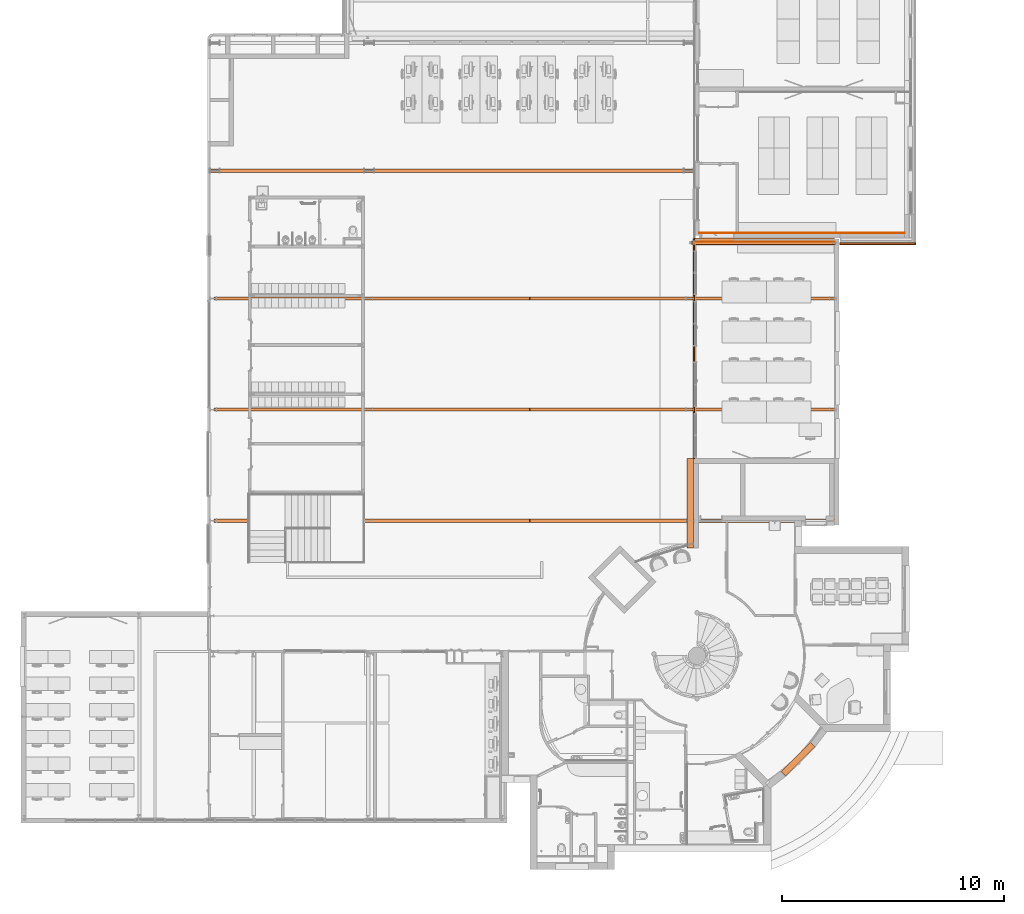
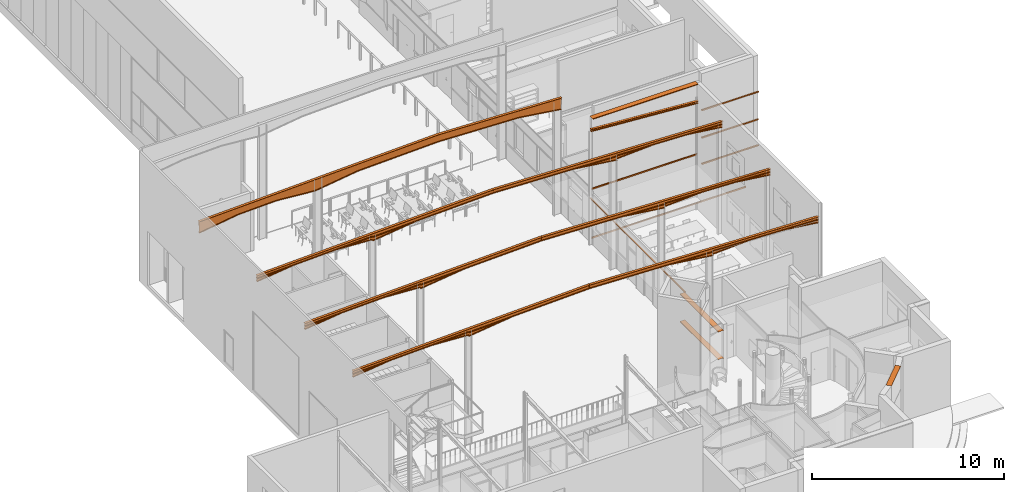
# One storey, part 131 of 137: 18 proxies.
"""IFC2X3 building model written with IfcOpenShell, lengths in centimetres."""

from ifc_helpers import new_model, entity, si_unit, converted_unit, derived_unit, direction, frame, frame_2d, origin, origin_2d_with_axis, place, context, subcontext, project, spatial, polyline, rectangle, outline, extrude, source, transform, mapped, element, save


model = new_model("IFC2X3")

# Units and contexts
model_context = context("Model", 3, precision=0.001, world=origin(), true_north=direction((6.12303176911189e-17, 1.0)))
body_context = subcontext(model_context, "Body", "Model", "MODEL_VIEW")
ifc_project = project(units=[si_unit("LENGTHUNIT", "METRE", prefix="CENTI"), si_unit("AREAUNIT", "SQUARE_METRE"), si_unit("VOLUMEUNIT", "CUBIC_METRE"), converted_unit("PLANEANGLEUNIT", "DEGREE", entity("IfcRatioMeasure", 0.0174532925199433), si_unit("PLANEANGLEUNIT", "RADIAN"), dimensions=[0, 0, 0, 0, 0, 0, 0]), si_unit("MASSUNIT", "GRAM", prefix="KILO"), si_unit("TIMEUNIT", "SECOND"), si_unit("FREQUENCYUNIT", "HERTZ"), si_unit("THERMODYNAMICTEMPERATUREUNIT", "DEGREE_CELSIUS"), derived_unit("THERMALTRANSMITTANCEUNIT", [(si_unit("MASSUNIT", "GRAM", prefix="KILO"), 1), (si_unit("THERMODYNAMICTEMPERATUREUNIT", "KELVIN"), -1), (si_unit("TIMEUNIT", "SECOND"), -3)]), derived_unit("VOLUMETRICFLOWRATEUNIT", [(si_unit("LENGTHUNIT", "METRE"), 3), (si_unit("TIMEUNIT", "SECOND"), -1)]), si_unit("ELECTRICCURRENTUNIT", "AMPERE"), si_unit("ELECTRICVOLTAGEUNIT", "VOLT"), si_unit("POWERUNIT", "WATT"), si_unit("FORCEUNIT", "NEWTON", prefix="KILO"), si_unit("ILLUMINANCEUNIT", "LUX"), si_unit("LUMINOUSFLUXUNIT", "LUMEN"), si_unit("LUMINOUSINTENSITYUNIT", "CANDELA"), derived_unit("USERDEFINED", [(si_unit("MASSUNIT", "GRAM", prefix="KILO"), -1), (si_unit("LENGTHUNIT", "METRE"), -2), (si_unit("TIMEUNIT", "SECOND"), 3), (si_unit("LUMINOUSFLUXUNIT", "LUMEN"), 1)]), derived_unit("LINEARVELOCITYUNIT", [(si_unit("LENGTHUNIT", "METRE"), 1), (si_unit("TIMEUNIT", "SECOND"), -1)]), si_unit("PRESSUREUNIT", "PASCAL"), derived_unit("USERDEFINED", [(si_unit("LENGTHUNIT", "METRE"), -2), (si_unit("MASSUNIT", "GRAM", prefix="KILO"), 1), (si_unit("TIMEUNIT", "SECOND"), -2)])], contexts=[model_context])

# Site, building, storey
site_placement = place(None, frame((8.62739174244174, -249.285249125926, 0.0)))
site = spatial("IfcSite", under=ifc_project, at=site_placement, Name="Default", CompositionType="ELEMENT")
building_placement = place(site_placement, origin())
building = spatial("IfcBuilding", under=site, at=building_placement, CompositionType="ELEMENT")
storey_placement = place(building_placement, origin())
storey = spatial("IfcBuildingStorey", under=building, at=storey_placement, Name="RDC", CompositionType="ELEMENT", Elevation=-8.82465566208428e-11)

# Proxies
shared_shape_1 = source(origin(), body_context, "Body", "SweptSolid", [
    extrude(rectangle(XDim=0.999999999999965, YDim=14.9999999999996, at=origin_2d_with_axis()), frame((-317.682768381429, -0.499999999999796, -38.6197056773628), z_axis=(0.999390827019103, 0.0, 0.0348994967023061), x_axis=(0.0348994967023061, 0.0, -0.999390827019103)), (0.0, 0.0, 1.0), 636.416314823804),
    extrude(rectangle(XDim=13.0, YDim=1.00000000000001, at=frame_2d((0.0, -3.10862446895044e-15), x_axis=(0.0, 1.0))), frame((-318.101562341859, -0.499999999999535, -31.6300634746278), z_axis=(0.999390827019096, 0.0, 0.0348994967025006), x_axis=(0.0, 1.0, 0.0)), (0.0, 0.0, 1.0), 636.416314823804),
    extrude(rectangle(XDim=0.999999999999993, YDim=15.0, at=frame_2d((-1.69309011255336e-15, 8.88178419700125e-16), x_axis=(1.0, 0.0))), frame((-318.345858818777, -0.499999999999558, -24.6343276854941), z_axis=(0.999390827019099, 0.0, 0.0348994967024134), x_axis=(0.0348994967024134, 0.0, -0.999390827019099)), (0.0, 0.0, 1.0), 636.416792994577),
])
proxy_1_placement = place(storey_placement, frame((3338.92893028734, 2611.98020806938, 725.900000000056), z_axis=(0.0341459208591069, 0.0, 0.999416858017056), x_axis=(-0.999416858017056, 0.0, 0.0341459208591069)))
element("IfcBuildingElementProxy", 1, at=proxy_1_placement, inside=storey, Name="Portique_3:Portique_3", ObjectType="Portique_3", context=body_context, shape_type="MappedRepresentation", body=[
    mapped(shared_shape_1, transform((0.0, 0.0, 0.0), scale=1.0)),
])
shared_shape_2 = source(origin(), body_context, "Body", "SweptSolid", [
    extrude(outline(polyline([(-107.920447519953, -0.49999999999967), (102.397426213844, -0.500000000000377), (113.498456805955, 0.499999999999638), (-107.975435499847, 0.500000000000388), (-107.920447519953, -0.49999999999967)])), frame((835.036972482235, -8.0, -34.848519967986), z_axis=(0.0, 1.0, 0.0), x_axis=(0.998491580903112, 0.0, 0.0549050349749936)), (0.0, 0.0, 1.0), 15.0000000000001),
    extrude(outline(polyline([(-139.865946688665, -6.28411905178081), (70.4512998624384, -6.28411905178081), (69.4146468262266, 12.5682381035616), (-139.865946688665, -6.28411905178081)])), frame((797.252487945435, -1.0, -30.1318446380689), z_axis=(0.0, 1.0, 0.0), x_axis=(-0.998491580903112, 0.0, -0.0549050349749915)), (0.0, 0.0, 1.0), 0.999999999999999),
    extrude(outline(polyline([(13.0119701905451, -107.784797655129), (14.0198017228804, -107.784797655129), (-13.7103805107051, 113.354392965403), (-13.3213914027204, 102.215202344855), (13.0119701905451, -107.784797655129)])), frame((1314.29024946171, -8.0, -51.6455465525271), z_axis=(0.0, 1.0, 0.0), x_axis=(0.0, 0.0, -1.0)), (0.0, 0.0, 1.0), 15.0000000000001),
    extrude(outline(polyline([(-140.306366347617, -6.32947523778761), (69.8216379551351, -6.32947523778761), (70.4847283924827, 12.6589504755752), (-140.306366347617, -6.32947523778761)])), frame((1352.07504711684, -1.0, -49.5463962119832), z_axis=(0.0, 1.0, 0.0), x_axis=(0.999390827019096, 0.0, -0.034899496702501)), (0.0, 0.0, 1.0), 0.999999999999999),
    extrude(outline(polyline([(15.780524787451, -129.86312074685), (16.7883563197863, -129.86312074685), (-16.4789351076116, 135.432716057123), (-16.0899459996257, 124.293525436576), (15.780524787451, -129.86312074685)])), frame((597.389367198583, -8.0, -32.6108168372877), z_axis=(0.0, 1.0, 0.0), x_axis=(0.0, 0.0, -1.0)), (0.0, 0.0, 1.0), 15.0000000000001),
    extrude(outline(polyline([(-169.844548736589, -7.66199634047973), (84.5209301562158, -7.66199634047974), (85.3236185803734, 15.3239926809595), (-169.844548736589, -7.66199634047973)])), frame((642.515645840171, -1.0, -30.0989325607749), z_axis=(0.0, 1.0, 0.0), x_axis=(0.999390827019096, 0.0, -0.034899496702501)), (0.0, 0.0, 1.0), 0.999999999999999),
    extrude(outline(polyline([(-130.81744949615, -0.499999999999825), (125.32963268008, -0.500000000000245), (136.430663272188, 0.499999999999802), (-130.942846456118, 0.500000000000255), (-130.81744949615, -0.499999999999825)])), frame((-612.084629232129, -8.0, -33.1288615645), z_axis=(0.0, 1.0, 0.0), x_axis=(0.99222932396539, 0.0, 0.124422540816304)), (0.0, 0.0, 1.0), 15.0000000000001),
    extrude(outline(polyline([(-169.847016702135, -7.60709148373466), (86.3543675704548, -7.60709148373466), (83.4926491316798, 15.2141829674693), (-169.847016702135, -7.60709148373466)])), frame((-657.210907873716, -1.0, -30.6169772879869), z_axis=(0.0, 1.0, 0.0), x_axis=(-0.99222932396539, 0.0, -0.124422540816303)), (0.0, 0.0, 1.0), 0.999999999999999),
    extrude(outline(polyline([(5.42613015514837, -107.785110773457), (6.42764085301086, -107.785110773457), (-5.73239095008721, 113.35470608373), (-6.12138005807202, 102.215515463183), (5.42613015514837, -107.785110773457)])), frame((-849.872310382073, -8.0, -35.3665813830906), z_axis=(0.0, 1.0, 0.0), x_axis=(0.0, 0.0, -1.0)), (0.0, 0.0, 1.0), 15.0000000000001),
    extrude(outline(polyline([(-139.865692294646, -6.28977855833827), (70.2623120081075, -6.28977855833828), (69.603380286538, 12.5795571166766), (-139.865692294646, -6.28977855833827)])), frame((-812.087825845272, -1.0, -30.6499060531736), z_axis=(0.0, 1.0, 0.0), x_axis=(0.999390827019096, 0.0, 0.0348994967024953)), (0.0, 0.0, 1.0), 0.999999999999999),
    extrude(outline(polyline([(-108.566219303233, -0.499999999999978), (103.078402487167, -0.50000000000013), (114.179433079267, 0.499999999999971), (-108.691616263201, 0.500000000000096), (-108.566219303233, -0.499999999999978)])), frame((-1270.33165539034, -8.0, -49.5307236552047), z_axis=(0.0, 1.0, 0.0), x_axis=(0.99222932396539, 0.0, 0.124422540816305)), (0.0, 0.0, 1.0), 15.0000000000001),
    extrude(outline(polyline([(-140.308405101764, -6.2841190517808), (71.3362166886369, -6.2841190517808), (68.9721884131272, 12.5682381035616), (-140.308405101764, -6.2841190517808)])), frame((-1308.11645304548, -1.0, -47.4315733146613), z_axis=(0.0, 1.0, 0.0), x_axis=(-0.99222932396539, 0.0, -0.124422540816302)), (0.0, 0.0, 1.0), 0.999999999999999),
    extrude(rectangle(XDim=0.999999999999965, YDim=14.9999999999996, at=frame_2d((-1.05748743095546e-14, 0.0), x_axis=(1.0, 0.0))), frame((-1378.13390279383, -0.499999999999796, -43.6227533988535), z_axis=(0.999390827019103, 0.0, 0.0348994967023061), x_axis=(0.0348994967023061, 0.0, -0.999390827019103)), (0.0, 0.0, 1.0), 636.416314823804),
    extrude(rectangle(XDim=18.0, YDim=1.00000000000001, at=frame_2d((0.0, -5.32907051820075e-15), x_axis=(0.0, 1.0))), frame((727.04572419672, -0.499999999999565, -11.3804625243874), z_axis=(0.999390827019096, 0.0, -0.0348994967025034), x_axis=(0.0, 1.0, 0.0)), (0.0, 0.0, 1.0), 695.802181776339),
    extrude(rectangle(XDim=1.00000000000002, YDim=14.9999999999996, at=frame_2d((-1.66533453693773e-15, 0.0), x_axis=(1.0, 0.0))), frame((726.714178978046, -0.499999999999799, -20.8746753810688), z_axis=(0.999390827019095, 0.0, -0.0348994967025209), x_axis=(-0.0348994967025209, 0.0, -0.999390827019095)), (0.0, 0.0, 1.0), 695.802181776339),
    extrude(rectangle(XDim=1.00000000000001, YDim=15.0, at=frame_2d((-1.11022302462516e-16, 8.88178419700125e-16), x_axis=(1.0, 0.0))), frame((727.377269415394, -0.499999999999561, -1.88624966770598), z_axis=(0.999390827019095, 0.0, -0.0348994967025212), x_axis=(-0.0348994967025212, 0.0, -0.999390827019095)), (0.0, 0.0, 1.0), 695.80218177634),
    extrude(rectangle(XDim=18.0, YDim=1.00000000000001, at=frame_2d((0.0, 3.5527136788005e-15), x_axis=(0.0, 1.0))), frame((-1378.4654480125, -0.499999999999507, -34.1285405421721), z_axis=(0.999390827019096, 0.0, 0.0348994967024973), x_axis=(0.0, 1.0, 0.0)), (0.0, 0.0, 1.0), 636.416314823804),
    extrude(rectangle(XDim=1.0, YDim=15.0, at=frame_2d((0.0, 8.88178419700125e-16), x_axis=(1.0, 0.0))), frame((-1378.79699323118, -0.499999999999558, -24.6343276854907), z_axis=(0.999390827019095, 0.0, 0.0348994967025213), x_axis=(0.0348994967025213, 0.0, -0.999390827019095)), (0.0, 0.0, 1.0), 636.416792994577),
    extrude(rectangle(XDim=22.0000000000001, YDim=1.00000000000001, at=frame_2d((-5.55111512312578e-17, 0.0), x_axis=(0.0, 1.0))), frame((0.418793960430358, -0.499999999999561, 11.9926899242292), z_axis=(0.999390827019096, 0.0, -0.0348994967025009), x_axis=(0.0, 1.0, 0.0)), (0.0, 0.0, 1.0), 727.000000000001),
    extrude(rectangle(XDim=1.00000000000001, YDim=14.9999999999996, at=origin_2d_with_axis()), frame((0.017449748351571, -0.499999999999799, 0.499695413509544), z_axis=(0.999390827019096, 0.0, -0.034899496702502), x_axis=(-0.034899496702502, 0.0, -0.999390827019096)), (0.0, 0.0, 1.0), 726.999999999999),
    extrude(rectangle(XDim=1.00000000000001, YDim=15.0, at=frame_2d((0.0, 8.88178419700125e-16), x_axis=(1.0, 0.0))), frame((0.820138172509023, -0.499999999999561, 23.4856844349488), z_axis=(0.999390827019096, 0.0, -0.0348994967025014), x_axis=(-0.0348994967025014, 0.0, -0.999390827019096)), (0.0, 0.0, 1.0), 726.999999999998),
    extrude(rectangle(XDim=22.0000000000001, YDim=1.00000000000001, at=frame_2d((0.0, 1.77635683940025e-15), x_axis=(0.0, 1.0))), frame((-742.366543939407, -0.499999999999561, -13.9166964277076), z_axis=(0.999390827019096, 0.0, 0.0348994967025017), x_axis=(0.0, 1.0, 0.0)), (0.0, 0.0, 1.0), 742.400000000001),
    extrude(rectangle(XDim=0.999999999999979, YDim=14.9999999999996, at=frame_2d((-3.52495810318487e-15, 0.0), x_axis=(1.0, 0.0))), frame((-741.965199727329, -0.499999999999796, -25.4096909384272), z_axis=(0.999390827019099, 0.0, 0.0348994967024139), x_axis=(0.0348994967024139, 0.0, -0.999390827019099)), (0.0, 0.0, 1.0), 742.400000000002),
    extrude(rectangle(XDim=0.999999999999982, YDim=15.0, at=frame_2d((-3.33066907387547e-15, 8.88178419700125e-16), x_axis=(1.0, 0.0))), frame((-742.767888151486, -0.49999999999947, -2.42370191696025), z_axis=(0.999390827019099, 0.0, 0.0348994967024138), x_axis=(0.0348994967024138, 0.0, -0.999390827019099)), (0.0, 0.0, 1.0), 742.0),
])
for number, where, z_axis, x_axis, name in (
    (2, (2291.24241572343, 1861.48020806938, 737.034620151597), (0.0, 0.0, 1.0), (-1.0, 0.0, 0.0), "Portique_4-51:Portique_4-5-6 2"),
    (3, (2291.24241572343, 1361.48020806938, 737.034620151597), (0.0, 0.0, 1.0), (-1.0, 0.0, 0.0), "Portique_4-51:Portique_4-5-6 2"),
    (4, (2291.24241572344, 2361.48020806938, 737.034620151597), (0.0, 0.0, 1.0), (-1.0, 0.0, 0.0), "Portique_4-51:Portique_4-5-6 2"),
):
    element("IfcBuildingElementProxy", number, at=place(storey_placement, frame(where, z_axis=z_axis, x_axis=x_axis)), inside=storey, Name=name, ObjectType="Portique_4-5-6 2", context=body_context, shape_type="MappedRepresentation", body=[
        mapped(shared_shape_2, transform((0.0, 0.0, 0.0), scale=1.0)),
    ])
shared_shape_3 = source(origin(), body_context, "Body", "SweptSolid", [
    extrude(rectangle(XDim=0.999999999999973, YDim=14.9999999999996, at=origin_2d_with_axis()), frame((-322.837915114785, -0.499999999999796, -38.7997273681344), z_axis=(0.999390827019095, 0.0, 0.0348994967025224), x_axis=(0.0348994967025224, 0.0, -0.999390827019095)), (0.0, 0.0, 1.0), 636.416792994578),
    extrude(rectangle(XDim=13.0, YDim=1.00000000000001, at=frame_2d((0.0, 3.10862446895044e-15), x_axis=(0.0, 1.0))), frame((-323.082211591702, -0.499999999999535, -31.8039915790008), z_axis=(0.999390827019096, 0.0, 0.0348994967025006), x_axis=(0.0, 1.0, 0.0)), (0.0, 0.0, 1.0), 636.416792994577),
    extrude(rectangle(XDim=0.999999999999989, YDim=15.0, at=frame_2d((0.0, 8.88178419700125e-16), x_axis=(1.0, 0.0))), frame((-323.326508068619, -0.499999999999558, -24.8082557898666), z_axis=(0.999390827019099, 0.0, 0.0348994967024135), x_axis=(0.0348994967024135, 0.0, -0.999390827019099)), (0.0, 0.0, 1.0), 636.416792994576),
])
proxy_2_placement = place(storey_placement, frame((3345.92305056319, 2611.48020806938, 725.661039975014), z_axis=(0.0341459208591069, 0.0, 0.999416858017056), x_axis=(-0.999416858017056, 0.0, 0.0341459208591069)))
element("IfcBuildingElementProxy", 5, at=proxy_2_placement, inside=storey, Name="Portique_1:Portique_3 2", ObjectType="Portique_3 2", context=body_context, shape_type="MappedRepresentation", body=[
    mapped(shared_shape_3, transform((0.0, 0.0, 0.0), scale=1.0)),
])
shared_shape_4 = source(origin(), body_context, "Body", "SweptSolid", [
    extrude(outline(polyline([(8.95434758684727, -116.301011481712), (9.96650108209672, -116.301011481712), (-8.95434758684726, 116.301011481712), (-9.96650108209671, 116.301011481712), (8.95434758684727, -116.301011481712)])), frame((1319.78464007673, -8.0, -82.1577671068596), z_axis=(0.0, 1.0, 0.0), x_axis=(-0.0697564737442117, 0.0, -0.997564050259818)), (0.0, 0.0, 1.0), 15.0000000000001),
    extrude(outline(polyline([(-115.9, -29.2567540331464), (115.9, -29.2567540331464), (115.9, 42.7702620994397), (-115.9, 15.7432459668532), (-115.9, -29.2567540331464)])), frame((1320.840988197, -1.0, -52.4139915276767), z_axis=(0.0, 1.0, 0.0), x_axis=(0.999390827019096, 0.0, -0.0348994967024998)), (0.0, 0.0, 1.0), 0.999999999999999),
    extrude(rectangle(XDim=0.999999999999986, YDim=14.9999999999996, at=frame_2d((0.0, 4.44089209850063e-16), x_axis=(1.0, 0.0))), frame((972.785916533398, -0.499999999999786, -56.5127875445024), z_axis=(0.999390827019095, 0.0, -0.0348994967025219), x_axis=(-0.0348994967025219, 0.0, -0.999390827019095)), (0.0, 0.0, 1.0), 231.799999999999),
    extrude(rectangle(XDim=0.999999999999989, YDim=14.9999999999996, at=frame_2d((1.69309011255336e-15, 4.44089209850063e-16), x_axis=(1.0, 0.0))), frame((-0.0174497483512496, -0.4999999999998, 23.4862936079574), z_axis=(0.999390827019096, 0.0, -0.0348994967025), x_axis=(-0.0348994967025, 0.0, -0.999390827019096)), (0.0, 0.0, 1.0), 743.202688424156),
    extrude(outline(polyline([(13.0095923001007, -128.825000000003), (14.0174238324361, -128.825000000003), (-13.0095923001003, 128.825000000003), (-14.0174238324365, 128.825000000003), (13.0095923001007, -128.825000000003)])), frame((611.908848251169, -8.0, -57.4363459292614), z_axis=(0.0, 1.0, 0.0), x_axis=(-0.0348994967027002, 0.0, -0.999390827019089)), (0.0, 0.0, 1.0), 15.0000000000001),
    extrude(outline(polyline([(-128.825, -29.2567540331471), (128.825, -29.2567540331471), (128.825, 42.7702620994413), (-128.825, 15.7432459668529), (-128.825, -29.2567540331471)])), frame((612.947480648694, -1.0, -27.6938055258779), z_axis=(0.0, 1.0, 0.0), x_axis=(0.999390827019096, 0.0, -0.0348994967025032)), (0.0, 0.0, 1.0), 0.999999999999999),
    extrude(rectangle(XDim=45.0, YDim=1.00000000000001, at=frame_2d((0.0, 0.0), x_axis=(0.0, 1.0))), frame((-0.820138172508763, -0.499999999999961, 0.500304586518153), z_axis=(0.999390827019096, 0.0, -0.0348994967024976), x_axis=(0.0, 1.0, 0.0)), (0.0, 0.0, 1.0), 485.55268842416),
    extrude(outline(polyline([(-241.964436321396, -0.499999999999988), (241.94697593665, -0.499999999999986), (241.981896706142, 0.499999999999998), (-241.964436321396, 0.499999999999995), (-241.964436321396, -0.499999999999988)])), frame((241.81703812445, -8.0, -30.9867918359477), z_axis=(0.0, 1.0, 0.0), x_axis=(-0.999390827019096, 0.0, 0.0348994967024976)), (0.0, 0.0, 1.0), 14.9999999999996),
    extrude(rectangle(XDim=0.999999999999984, YDim=14.9999999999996, at=frame_2d((-4.21884749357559e-15, 0.0), x_axis=(1.0, 0.0))), frame((-742.732499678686, -0.499999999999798, -2.45110616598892), z_axis=(0.999390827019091, 0.0, 0.0348994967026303), x_axis=(0.0348994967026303, 0.0, -0.999390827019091)), (0.0, 0.0, 1.0), 743.20268842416),
    extrude(outline(polyline([(-116.644121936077, -0.504410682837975), (116.7261838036, -0.50441068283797), (116.644121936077, 0.504410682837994), (-116.7261838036, 0.504410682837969), (-116.644121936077, -0.504410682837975)])), frame((856.502354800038, -8.0, -65.9795932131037), z_axis=(0.0, 1.0, 0.0), x_axis=(0.996707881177, 0.0, 0.0810765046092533)), (0.0, 0.0, 1.0), 15.0000000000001),
    extrude(outline(polyline([(-29.2567540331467, -115.9), (15.7432459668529, -115.9), (42.7702620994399, 115.9), (-29.2567540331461, 115.9), (-29.2567540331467, -115.9)])), frame((857.523400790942, -1.0, -36.2345848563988), z_axis=(0.0, 1.0, 0.0), x_axis=(-0.0348994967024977, 0.0, -0.999390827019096)), (0.0, 0.0, 1.0), 0.999999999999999),
    extrude(outline(polyline([(-129.479260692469, -0.501165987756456), (129.584403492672, -0.501165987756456), (129.479260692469, 0.501165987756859), (-129.584403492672, 0.501165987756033), (-129.479260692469, -0.501165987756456)])), frame((-611.908848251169, -8.0, -57.4363459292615), z_axis=(0.0, 1.0, 0.0), x_axis=(0.990296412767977, 0.0, 0.138971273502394)), (0.0, 0.0, 1.0), 15.0000000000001),
    extrude(outline(polyline([(-29.2567540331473, -128.825), (15.7432459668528, -128.825), (42.7702620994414, 128.825), (-29.256754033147, 128.825), (-29.2567540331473, -128.825)])), frame((-612.947480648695, -1.0, -27.6938055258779), z_axis=(0.0, 1.0, 0.0), x_axis=(0.0348994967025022, 0.0, -0.999390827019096)), (0.0, 0.0, 1.0), 0.999999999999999),
    extrude(rectangle(XDim=44.9999999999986, YDim=1.00000000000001, at=frame_2d((0.0, -5.32907051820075e-15), x_axis=(0.0, 1.0))), frame((973.588604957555, -0.499999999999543, -33.5267985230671), z_axis=(0.999390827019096, 0.0, -0.0348994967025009), x_axis=(0.0, 1.0, 0.0)), (0.0, 0.0, 1.0), 231.8),
    extrude(rectangle(XDim=0.999999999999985, YDim=15.0, at=frame_2d((-4.16333634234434e-16, 8.88178419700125e-16), x_axis=(1.0, 0.0))), frame((742.732499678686, -0.499999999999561, -2.45110616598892), z_axis=(0.999390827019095, 0.0, -0.034899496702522), x_axis=(-0.034899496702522, 0.0, -0.999390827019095)), (0.0, 0.0, 1.0), 695.399999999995),
    extrude(rectangle(XDim=45.0, YDim=1.00000000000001, at=frame_2d((0.0, 1.77635683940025e-15), x_axis=(0.0, 1.0))), frame((-484.436764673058, -0.499999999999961, -16.4452398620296), z_axis=(0.999390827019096, 0.0, 0.0348994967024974), x_axis=(0.0, 1.0, 0.0)), (0.0, 0.0, 1.0), 485.55268842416),
    extrude(outline(polyline([(-0.499999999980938, -241.964436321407), (0.500000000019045, -241.964436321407), (0.49999999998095, 241.981896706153), (-0.500000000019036, 241.946975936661), (-0.499999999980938, -241.964436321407)])), frame((-241.817038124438, -8.0, -30.9867918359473), z_axis=(0.0, 1.0, 0.0), x_axis=(-0.0348994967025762, 0.0, 0.999390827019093)), (0.0, 0.0, 1.0), 14.9999999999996),
])
proxy_3_placement = place(storey_placement, frame((2291.15487837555, 2936.48020806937, 736.951410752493), z_axis=(0.0, 0.0, 1.0), x_axis=(-1.0, 0.0, 0.0)))
element("IfcBuildingElementProxy", 6, at=proxy_3_placement, inside=storey, Name="Portique_11:Portique_1-2", ObjectType="Portique_1-2", context=body_context, shape_type="MappedRepresentation", body=[
    mapped(shared_shape_4, transform((0.0, 0.0, 0.0), scale=1.0)),
])
proxy_4_placement = place(storey_placement, origin())
element("IfcBuildingElementProxy", 7, at=proxy_4_placement, inside=storey, Name="Profil en relief:Profil-acier-5x5", ObjectType="Profil en relief:Profil-acier-5x5", context=body_context, shape_type="SweptSolid", body=[
    extrude(outline(polyline([(-165.750000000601, -3.49999999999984), (169.250000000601, -3.49999999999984), (169.250000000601, 3.49999999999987), (-172.750000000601, 3.50000000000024), (-165.750000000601, -3.49999999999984)])), frame((3856.15482780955, 2608.48020806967, 280.0), z_axis=(0.0, 0.0, 1.0), x_axis=(-1.0, 0.0, 0.0)), (0.0, 0.0, 1.0), 4.99999999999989),
])
proxy_5_placement = place(storey_placement, origin())
element("IfcBuildingElementProxy", 8, at=proxy_5_placement, inside=storey, Name="Profil en relief:Profil-acier-5x5", ObjectType="Profil en relief:Profil-acier-5x5", context=body_context, shape_type="SweptSolid", body=[
    extrude(outline(polyline([(-165.750000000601, -3.49999999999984), (169.250000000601, -3.49999999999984), (169.250000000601, 3.49999999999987), (-172.750000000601, 3.50000000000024), (-165.750000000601, -3.49999999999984)])), frame((3856.15482780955, 2608.48020806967, 621.0), z_axis=(0.0, 0.0, 1.0), x_axis=(-1.0, 0.0, 0.0)), (0.0, 0.0, 1.0), 5.00000000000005),
])
proxy_6_placement = place(storey_placement, origin())
element("IfcBuildingElementProxy", 9, at=proxy_6_placement, inside=storey, Name="Profil en relief:Profil-acier-5x5", ObjectType="Profil en relief:Profil-acier-5x5", context=body_context, shape_type="SweptSolid", body=[
    extrude(rectangle(XDim=342.000000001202, YDim=6.99999999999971, at=frame_2d((0.0, 4.33209024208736e-13), x_axis=(1.0, 0.0))), frame((3857.90482780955, 2608.48020806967, 105.0), z_axis=(0.0, 0.0, 1.0), x_axis=(-1.0, 0.0, 0.0)), (0.0, 0.0, 1.0), 4.99999999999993),
])
proxy_7_placement = place(storey_placement, origin())
element("IfcBuildingElementProxy", 10, at=proxy_7_placement, inside=storey, Name="Profil en relief:Profil-acier-5x5", ObjectType="Profil en relief:Profil-acier-5x5", context=body_context, shape_type="SweptSolid", body=[
    extrude(rectangle(XDim=339.000000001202, YDim=6.99999999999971, at=frame_2d((0.0, 4.33209024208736e-13), x_axis=(1.0, 0.0))), frame((3856.40482780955, 2608.48020806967, 446.0), z_axis=(0.0, 0.0, 1.0), x_axis=(-1.0, 0.0, 0.0)), (0.0, 0.0, 1.0), 4.99999999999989),
])
proxy_8_placement = place(storey_placement, origin())
element("IfcBuildingElementProxy", 11, at=proxy_8_placement, inside=storey, Name="Profil en relief:Profil en relief", ObjectType="Profil en relief:Profil en relief", context=body_context, shape_type="SweptSolid", body=[
    extrude(rectangle(XDim=633.000000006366, YDim=1.99999999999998, at=frame_2d((-1.98951966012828e-13, -4.33153513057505e-13), x_axis=(1.0, 0.0))), frame((3346.40482780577, 2615.98020806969, 343.0)), (0.0, 0.0, 1.0), 10.0),
])
proxy_9_placement = place(storey_placement, origin())
element("IfcBuildingElementProxy", 12, at=proxy_9_placement, inside=storey, Name="Profil en relief:Plinthe-10x2", ObjectType="Profil en relief:Plinthe-10x2", context=body_context, shape_type="SweptSolid", body=[
    extrude(rectangle(XDim=292.000000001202, YDim=1.99999999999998, at=frame_2d((0.0, 2.16604512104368e-13), x_axis=(1.0, 0.0))), frame((3832.90482780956, 2655.98020806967, 0.0), z_axis=(0.0, 0.0, 1.0), x_axis=(-1.0, 0.0, 0.0)), (0.0, 0.0, 1.0), 10.0),
])
proxy_10_placement = place(storey_placement, origin())
element("IfcBuildingElementProxy", 13, at=proxy_10_placement, inside=storey, Name="Profil en relief:Plinthe-10x2", ObjectType="Profil en relief:Plinthe-10x2", context=body_context, shape_type="SweptSolid", body=[
    extrude(rectangle(XDim=632.999999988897, YDim=1.99999999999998, at=frame_2d((-4.2632564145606e-13, 0.0), x_axis=(1.0, 0.0))), frame((3370.40482781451, 2655.98020806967, 0.0), z_axis=(0.0, 0.0, 1.0), x_axis=(-1.0, 0.0, 0.0)), (0.0, 0.0, 1.0), 10.0),
])
proxy_11_placement = place(storey_placement, origin())
element("IfcBuildingElementProxy", 14, at=proxy_11_placement, inside=storey, Name="Profil en relief:profil-couvertine-ex", ObjectType="Profil en relief:profil-couvertine-ex", context=body_context, shape_type="SweptSolid", body=[
    extrude(outline(polyline([(-3.07708620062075, -14.9798097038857), (1.92947315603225, -14.9798097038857), (0.515259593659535, -13.5655961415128), (0.444548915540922, -13.6363068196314), (1.68805179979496, -14.8798097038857), (-2.97052684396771, -14.8798097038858), (-2.97052684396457, 14.9201902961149), (1.82947315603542, 14.9201902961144), (1.82947315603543, 13.5201902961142), (1.92947315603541, 13.5201902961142), (1.92947315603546, 15.0201902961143), (-3.07708620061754, 15.0201902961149), (-3.07708620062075, -14.9798097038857)])), frame((3433.08067929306, 222.322086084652, 406.922913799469), z_axis=(0.707106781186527, 0.707106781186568, 0.0), x_axis=(0.0, 0.0, -1.0)), (0.0, 0.0, 1.0), 186.875993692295),
])
proxy_12_placement = place(storey_placement, origin())
element("IfcBuildingElementProxy", 15, at=proxy_12_placement, inside=storey, Name="Profil en relief:Profil-acier-5x5", ObjectType="Profil en relief:Profil-acier-5x5", context=body_context, shape_type="SweptSolid", body=[
    extrude(rectangle(XDim=989.999999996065, YDim=6.99999999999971, at=frame_2d((0.0, -2.16715534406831e-13), x_axis=(1.0, 0.0))), frame((3030.40482780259, 2135.98020807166, 280.0), z_axis=(0.0, 0.0, 1.0), x_axis=(0.0, -1.0, 0.0)), (0.0, 0.0, 1.0), 4.99999999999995),
])
proxy_13_placement = place(storey_placement, origin())
element("IfcBuildingElementProxy", 16, at=proxy_13_placement, inside=storey, Name="Profil en relief:profil-couvertine-ex", ObjectType="Profil en relief:profil-couvertine-ex", context=body_context, shape_type="SweptSolid", body=[
    extrude(outline(polyline([(-14.9798097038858, -3.07708620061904), (15.0201902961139, -3.07708620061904), (15.0201902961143, 1.92947315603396), (13.5201902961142, 1.92947315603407), (13.5201902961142, 1.82947315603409), (14.9201902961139, 1.82947315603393), (14.9201902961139, -2.97052684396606), (-14.8798097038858, -2.97052684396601), (-14.8798097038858, 1.68805179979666), (-13.6363068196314, 0.444548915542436), (-13.5655961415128, 0.51525959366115), (-14.9798097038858, 1.92947315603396), (-14.9798097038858, -3.07708620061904)])), frame((3012.88463750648, 1239.48020807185, 281.929473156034), z_axis=(0.0, 1.0, 0.0), x_axis=(1.0, 0.0, 0.0)), (0.0, 0.0, 1.0), 401.500000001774),
])
proxy_14_placement = place(storey_placement, origin())
element("IfcBuildingElementProxy", 17, at=proxy_14_placement, inside=storey, Name="Profil en relief:profil-couvertine-ex", ObjectType="Profil en relief:profil-couvertine-ex", context=body_context, shape_type="SweptSolid", body=[
    extrude(outline(polyline([(-14.9798097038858, -3.07708620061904), (15.0201902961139, -3.07708620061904), (15.0201902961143, 1.92947315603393), (13.5201902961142, 1.9294731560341), (13.5201902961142, 1.82947315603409), (14.9201902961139, 1.82947315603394), (14.9201902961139, -2.97052684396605), (-14.8798097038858, -2.970526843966), (-14.8798097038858, 1.68805179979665), (-13.6363068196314, 0.444548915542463), (-13.5655961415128, 0.515259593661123), (-14.9798097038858, 1.92947315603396), (-14.9798097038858, -3.07708620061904)])), frame((3012.88463750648, 1239.48020807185, 106.922913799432), z_axis=(0.0, 1.0, 0.0), x_axis=(1.0, 0.0, 0.0)), (0.0, 0.0, 1.0), 401.500000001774),
])
proxy_15_placement = place(storey_placement, origin())
element("IfcBuildingElementProxy", 18, at=proxy_15_placement, inside=storey, Name="Profil en relief:profil-couvertine-ex", ObjectType="Profil en relief:profil-couvertine-ex", context=body_context, shape_type="SweptSolid", body=[
    extrude(outline(polyline([(-3.07708620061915, -14.9798097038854), (1.9294731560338, -14.9798097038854), (0.515259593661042, -13.5655961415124), (0.444548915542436, -13.636306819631), (1.6880517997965, -14.8798097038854), (-2.97052684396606, -14.8798097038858), (-2.97052684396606, 14.9201902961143), (1.82947315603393, 14.9201902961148), (1.82947315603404, 13.5201902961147), (1.92947315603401, 13.5201902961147), (1.9294731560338, 15.0201902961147), (-3.07708620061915, 15.0201902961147), (-3.07708620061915, -14.9798097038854)])), frame((3029.90482780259, 2618.74585597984, 797.929473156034), z_axis=(1.0, 0.0, 0.0), x_axis=(0.0, 0.0, -1.0)), (0.0, 0.0, 1.0), 633.000000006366),
])

save(model, "model.ifc")
